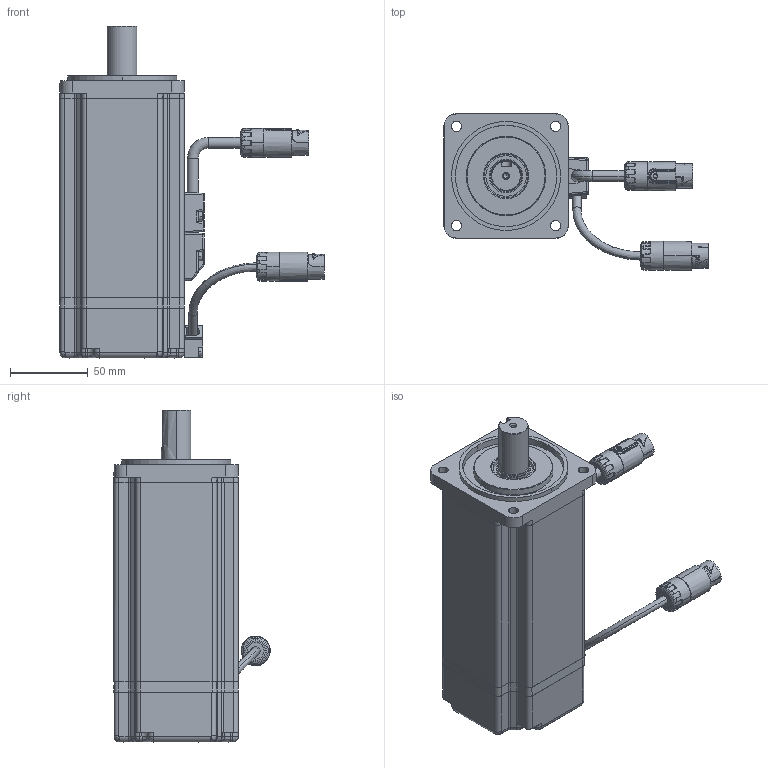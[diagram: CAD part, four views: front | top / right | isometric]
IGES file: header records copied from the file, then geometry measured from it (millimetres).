
Start section:  PTC IGES file: ECMA-J10807YF.igs
Global section: file name: ECMA-J10807YF.igs; native system: Pro/ENGINEER by Parametric Technology Corporation; preprocessor: 2010180; author: MIO.CHEN; organization: Unknown; date: 20160531.090127; units: millimetre
Bounding box: 169.72 x 100.32 x 213 mm (x, y, z)
Volume: 1059913.3 mm3; surface area: 85898.9 mm2
Topology: 1 solids, 1 shells, 955 faces, 2543 edges, 1644 vertices
Faces by surface type: revolution 612, bspline 335, extrusion 8
